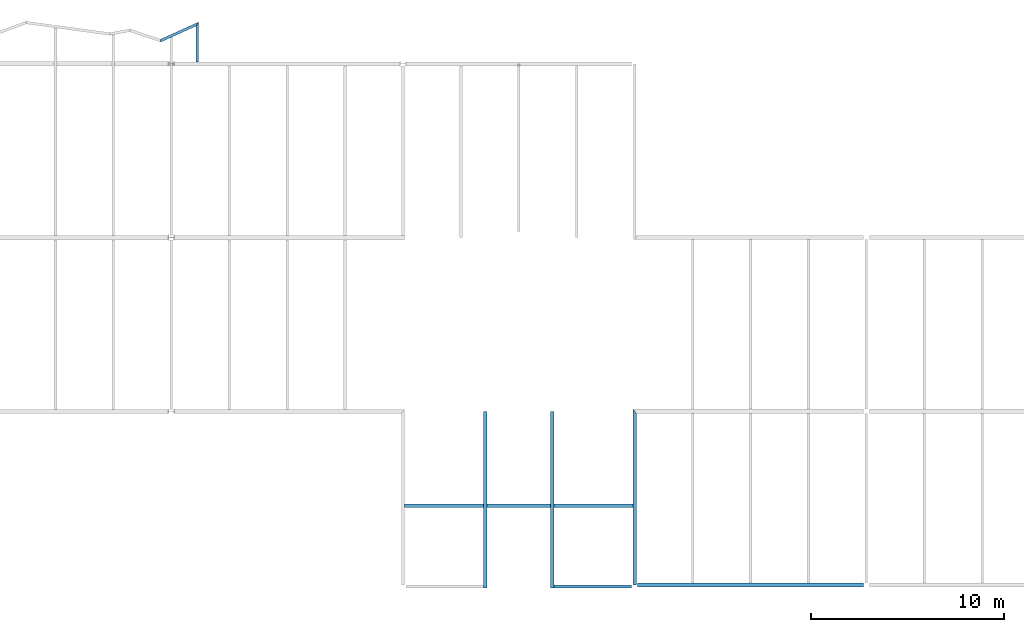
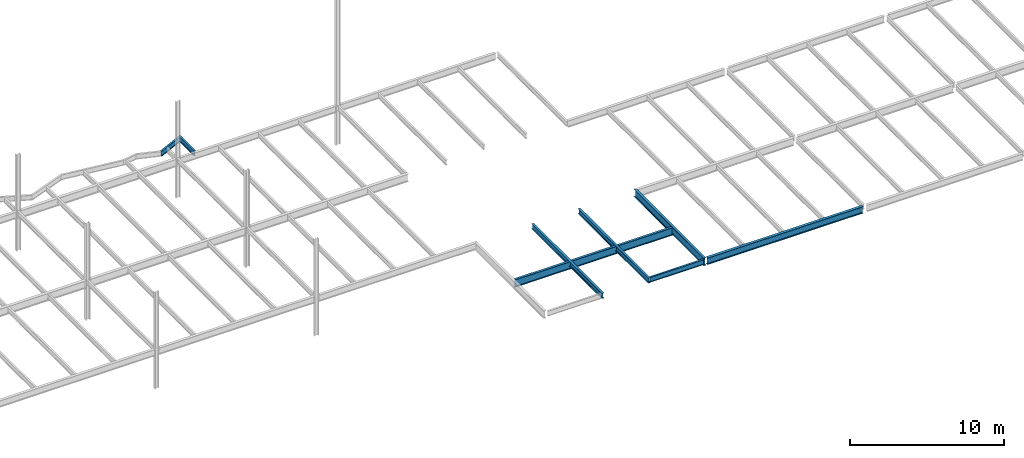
# One storey, part 12 of 23: 8 beams.
"""IFC2X3 building model written with IfcOpenShell, lengths in millimetres."""

from ifc_helpers import new_model, si_unit, origin, place, context, project, spatial, faceted_brep, material, element, save


model = new_model("IFC2X3")

# Units and contexts
context_of_model = context(None, 3, precision=1e-05, world=origin())
ifc_project = project(units=[si_unit("LENGTHUNIT", "METRE", prefix="MILLI")], contexts=[context_of_model])

# Building, storey
building = spatial("IfcBuilding", under=ifc_project, Name="Building", CompositionType="ELEMENT")
storey = spatial("IfcBuildingStorey", under=building, Name="FL5-FRM", CompositionType="ELEMENT")

# Beams
ifc_material_1 = material(Name="A992")
beam_1_placement = place(None, origin())
element("IfcBeam", 1, at=beam_1_placement, inside=storey, material=ifc_material_1, Name="B607", context=context_of_model, shape_type="Brep", body=[
    faceted_brep([(89.5, 13020.0, 17270.0), (89.5, 13199.0, 17270.0), (11910.5, 13199.0, 17270.0), (11910.5, 13020.0, 17270.0), (89.5, 13199.0, 17285.0), (11910.5, 13199.0, 17285.0), (89.5, 13130.1, 17285.0), (11910.5, 13130.1, 17285.0), (89.5, 13126.2, 17285.5), (11910.5, 13126.2, 17285.5), (89.5, 13122.5, 17287.0), (11910.5, 13122.5, 17287.0), (89.5, 13119.4, 17289.5), (11910.5, 13119.4, 17289.5), (89.5, 13117.0, 17292.6), (11910.5, 13117.0, 17292.6), (89.5, 13115.5, 17296.3), (11910.5, 13115.5, 17296.3), (89.5, 13114.9, 17300.2), (11910.5, 13114.9, 17300.2), (89.5, 13114.9, 17842.8), (11910.5, 13114.9, 17842.8), (89.5, 13115.5, 17846.7), (11910.5, 13115.5, 17846.7), (89.5, 13117.0, 17850.4), (11910.5, 13117.0, 17850.4), (89.5, 13119.4, 17853.5), (11910.5, 13119.4, 17853.5), (89.5, 13122.5, 17856.0), (11910.5, 13122.5, 17856.0), (89.5, 13126.2, 17857.5), (11910.5, 13126.2, 17857.5), (89.5, 13130.1, 17858.0), (11910.5, 13130.1, 17858.0), (89.5, 13199.0, 17858.0), (11910.5, 13199.0, 17858.0), (89.5, 13199.0, 17873.0), (11910.5, 13199.0, 17873.0), (89.5, 13020.0, 17873.0), (11910.5, 13020.0, 17873.0), (89.5, 13020.0, 17858.0), (11910.5, 13020.0, 17858.0), (89.5, 13088.9, 17858.0), (11910.5, 13088.9, 17858.0), (89.5, 13092.8, 17857.5), (11910.5, 13092.8, 17857.5), (89.5, 13096.5, 17856.0), (11910.5, 13096.5, 17856.0), (89.5, 13099.6, 17853.5), (11910.5, 13099.6, 17853.5), (89.5, 13102.0, 17850.4), (11910.5, 13102.0, 17850.4), (89.5, 13103.5, 17846.7), (11910.5, 13103.5, 17846.7), (89.5, 13104.1, 17842.8), (11910.5, 13104.1, 17842.8), (89.5, 13104.1, 17300.2), (11910.5, 13104.1, 17300.2), (89.5, 13103.5, 17296.3), (11910.5, 13103.5, 17296.3), (89.5, 13102.0, 17292.6), (11910.5, 13102.0, 17292.6), (89.5, 13099.6, 17289.5), (11910.5, 13099.6, 17289.5), (89.5, 13096.5, 17287.0), (11910.5, 13096.5, 17287.0), (89.5, 13092.8, 17285.5), (11910.5, 13092.8, 17285.5), (89.5, 13088.9, 17285.0), (11910.5, 13088.9, 17285.0), (89.5, 13020.0, 17285.0), (11910.5, 13020.0, 17285.0)], [[[0, 1, 2, 3]], [[1, 4, 5, 2]], [[4, 6, 7, 5]], [[6, 8, 9, 7]], [[8, 10, 11, 9]], [[10, 12, 13, 11]], [[12, 14, 15, 13]], [[14, 16, 17, 15]], [[16, 18, 19, 17]], [[18, 20, 21, 19]], [[20, 22, 23, 21]], [[22, 24, 25, 23]], [[24, 26, 27, 25]], [[26, 28, 29, 27]], [[28, 30, 31, 29]], [[30, 32, 33, 31]], [[32, 34, 35, 33]], [[34, 36, 37, 35]], [[36, 38, 39, 37]], [[38, 40, 41, 39]], [[40, 42, 43, 41]], [[42, 44, 45, 43]], [[44, 46, 47, 45]], [[46, 48, 49, 47]], [[48, 50, 51, 49]], [[50, 52, 53, 51]], [[52, 54, 55, 53]], [[54, 56, 57, 55]], [[56, 58, 59, 57]], [[58, 60, 61, 59]], [[60, 62, 63, 61]], [[62, 64, 65, 63]], [[64, 66, 67, 65]], [[66, 68, 69, 67]], [[68, 70, 71, 69]], [[70, 0, 3, 71]], [[0, 70, 68, 66, 64, 62, 60, 58, 56, 54, 52, 50, 48, 46, 44, 42, 40, 38, 36, 34, 32, 30, 28, 26, 24, 22, 20, 18, 16, 14, 12, 10, 8, 6, 4, 1]], [[3, 2, 5, 7, 9, 11, 13, 15, 17, 19, 21, 23, 25, 27, 29, 31, 33, 35, 37, 39, 41, 43, 45, 47, 49, 51, 53, 55, 57, 59, 61, 63, 65, 67, 69, 71]]]),
])
ifc_material_2 = material(Name="A992")
beam_2_placement = place(None, origin())
element("IfcBeam", 2, at=beam_2_placement, inside=storey, material=ifc_material_2, Name="B755", context=context_of_model, shape_type="Brep", body=[
    faceted_brep([(7827.0, 8851.2, 17466.0), (7649.0, 8851.2, 17466.0), (7649.0, 18000.0, 17466.0), (7827.0, 18000.0, 17466.0), (7649.0, 8851.2, 17478.8), (7649.0, 18000.0, 17478.8), (7723.95, 8851.2, 17478.8), (7723.95, 18000.0, 17478.8), (7726.59, 8851.2, 17479.1), (7726.59, 18000.0, 17479.1), (7729.05, 8851.2, 17480.2), (7729.05, 18000.0, 17480.2), (7731.16, 8851.2, 17481.8), (7731.16, 18000.0, 17481.8), (7732.78, 8851.2, 17483.9), (7732.78, 18000.0, 17483.9), (7733.8, 8851.2, 17486.4), (7733.8, 18000.0, 17486.4), (7734.15, 8851.2, 17489.0), (7734.15, 18000.0, 17489.0), (7734.15, 8851.2, 17850.0), (7734.15, 18000.0, 17850.0), (7733.8, 8851.2, 17852.6), (7733.8, 18000.0, 17852.6), (7732.78, 8851.2, 17855.1), (7732.78, 18000.0, 17855.1), (7731.16, 8851.2, 17857.2), (7731.16, 18000.0, 17857.2), (7729.05, 8851.2, 17858.8), (7729.05, 18000.0, 17858.8), (7726.59, 8851.2, 17859.9), (7726.59, 18000.0, 17859.9), (7723.95, 8851.2, 17860.2), (7723.95, 18000.0, 17860.2), (7649.0, 8851.2, 17860.2), (7649.0, 18000.0, 17860.2), (7649.0, 8851.2, 17873.0), (7649.0, 18000.0, 17873.0), (7827.0, 8851.2, 17873.0), (7827.0, 18000.0, 17873.0), (7827.0, 8851.2, 17860.2), (7827.0, 18000.0, 17860.2), (7752.05, 8851.2, 17860.2), (7752.05, 18000.0, 17860.2), (7749.41, 8851.2, 17859.9), (7749.41, 18000.0, 17859.9), (7746.95, 8851.2, 17858.8), (7746.95, 18000.0, 17858.8), (7744.84, 8851.2, 17857.2), (7744.84, 18000.0, 17857.2), (7743.22, 8851.2, 17855.1), (7743.22, 18000.0, 17855.1), (7742.2, 8851.2, 17852.6), (7742.2, 18000.0, 17852.6), (7741.85, 8851.2, 17850.0), (7741.85, 18000.0, 17850.0), (7741.85, 8851.2, 17489.0), (7741.85, 18000.0, 17489.0), (7742.2, 8851.2, 17486.4), (7742.2, 18000.0, 17486.4), (7743.22, 8851.2, 17483.9), (7743.22, 18000.0, 17483.9), (7744.84, 8851.2, 17481.8), (7744.84, 18000.0, 17481.8), (7746.95, 8851.2, 17480.2), (7746.95, 18000.0, 17480.2), (7749.41, 8851.2, 17479.1), (7749.41, 18000.0, 17479.1), (7752.05, 8851.2, 17478.8), (7752.05, 18000.0, 17478.8), (7827.0, 8851.2, 17478.8), (7827.0, 18000.0, 17478.8)], [[[0, 1, 2, 3]], [[1, 4, 5, 2]], [[4, 6, 7, 5]], [[6, 8, 9, 7]], [[8, 10, 11, 9]], [[10, 12, 13, 11]], [[12, 14, 15, 13]], [[14, 16, 17, 15]], [[16, 18, 19, 17]], [[18, 20, 21, 19]], [[20, 22, 23, 21]], [[22, 24, 25, 23]], [[24, 26, 27, 25]], [[26, 28, 29, 27]], [[28, 30, 31, 29]], [[30, 32, 33, 31]], [[32, 34, 35, 33]], [[34, 36, 37, 35]], [[36, 38, 39, 37]], [[38, 40, 41, 39]], [[40, 42, 43, 41]], [[42, 44, 45, 43]], [[44, 46, 47, 45]], [[46, 48, 49, 47]], [[48, 50, 51, 49]], [[50, 52, 53, 51]], [[52, 54, 55, 53]], [[54, 56, 57, 55]], [[56, 58, 59, 57]], [[58, 60, 61, 59]], [[60, 62, 63, 61]], [[62, 64, 65, 63]], [[64, 66, 67, 65]], [[66, 68, 69, 67]], [[68, 70, 71, 69]], [[70, 0, 3, 71]], [[0, 70, 68, 66, 64, 62, 60, 58, 56, 54, 52, 50, 48, 46, 44, 42, 40, 38, 36, 34, 32, 30, 28, 26, 24, 22, 20, 18, 16, 14, 12, 10, 8, 6, 4, 1]], [[3, 2, 5, 7, 9, 11, 13, 15, 17, 19, 21, 23, 25, 27, 29, 31, 33, 35, 37, 39, 41, 43, 45, 47, 49, 51, 53, 55, 57, 59, 61, 63, 65, 67, 69, 71]]]),
])
ifc_material_3 = material(Name="A992")
beam_3_placement = place(None, origin())
element("IfcBeam", 3, at=beam_3_placement, inside=storey, material=ifc_material_3, Name="B756", context=context_of_model, shape_type="Brep", body=[
    faceted_brep([(4351.0, 8851.2, 17466.0), (4173.0, 8851.2, 17466.0), (4173.0, 18000.0, 17466.0), (4351.0, 18000.0, 17466.0), (4173.0, 8851.2, 17478.8), (4173.0, 18000.0, 17478.8), (4247.95, 8851.2, 17478.8), (4247.95, 18000.0, 17478.8), (4250.59, 8851.2, 17479.1), (4250.59, 18000.0, 17479.1), (4253.05, 8851.2, 17480.2), (4253.05, 18000.0, 17480.2), (4255.16, 8851.2, 17481.8), (4255.16, 18000.0, 17481.8), (4256.78, 8851.2, 17483.9), (4256.78, 18000.0, 17483.9), (4257.8, 8851.2, 17486.4), (4257.8, 18000.0, 17486.4), (4258.15, 8851.2, 17489.0), (4258.15, 18000.0, 17489.0), (4258.15, 8851.2, 17850.0), (4258.15, 18000.0, 17850.0), (4257.8, 8851.2, 17852.6), (4257.8, 18000.0, 17852.6), (4256.78, 8851.2, 17855.1), (4256.78, 18000.0, 17855.1), (4255.16, 8851.2, 17857.2), (4255.16, 18000.0, 17857.2), (4253.05, 8851.2, 17858.8), (4253.05, 18000.0, 17858.8), (4250.59, 8851.2, 17859.9), (4250.59, 18000.0, 17859.9), (4247.95, 8851.2, 17860.2), (4247.95, 18000.0, 17860.2), (4173.0, 8851.2, 17860.2), (4173.0, 18000.0, 17860.2), (4173.0, 8851.2, 17873.0), (4173.0, 18000.0, 17873.0), (4351.0, 8851.2, 17873.0), (4351.0, 18000.0, 17873.0), (4351.0, 8851.2, 17860.2), (4351.0, 18000.0, 17860.2), (4276.05, 8851.2, 17860.2), (4276.05, 18000.0, 17860.2), (4273.41, 8851.2, 17859.9), (4273.41, 18000.0, 17859.9), (4270.95, 8851.2, 17858.8), (4270.95, 18000.0, 17858.8), (4268.84, 8851.2, 17857.2), (4268.84, 18000.0, 17857.2), (4267.22, 8851.2, 17855.1), (4267.22, 18000.0, 17855.1), (4266.2, 8851.2, 17852.6), (4266.2, 18000.0, 17852.6), (4265.85, 8851.2, 17850.0), (4265.85, 18000.0, 17850.0), (4265.85, 8851.2, 17489.0), (4265.85, 18000.0, 17489.0), (4266.2, 8851.2, 17486.4), (4266.2, 18000.0, 17486.4), (4267.22, 8851.2, 17483.9), (4267.22, 18000.0, 17483.9), (4268.84, 8851.2, 17481.8), (4268.84, 18000.0, 17481.8), (4270.95, 8851.2, 17480.2), (4270.95, 18000.0, 17480.2), (4273.41, 8851.2, 17479.1), (4273.41, 18000.0, 17479.1), (4276.05, 8851.2, 17478.8), (4276.05, 18000.0, 17478.8), (4351.0, 8851.2, 17478.8), (4351.0, 18000.0, 17478.8)], [[[0, 1, 2, 3]], [[1, 4, 5, 2]], [[4, 6, 7, 5]], [[6, 8, 9, 7]], [[8, 10, 11, 9]], [[10, 12, 13, 11]], [[12, 14, 15, 13]], [[14, 16, 17, 15]], [[16, 18, 19, 17]], [[18, 20, 21, 19]], [[20, 22, 23, 21]], [[22, 24, 25, 23]], [[24, 26, 27, 25]], [[26, 28, 29, 27]], [[28, 30, 31, 29]], [[30, 32, 33, 31]], [[32, 34, 35, 33]], [[34, 36, 37, 35]], [[36, 38, 39, 37]], [[38, 40, 41, 39]], [[40, 42, 43, 41]], [[42, 44, 45, 43]], [[44, 46, 47, 45]], [[46, 48, 49, 47]], [[48, 50, 51, 49]], [[50, 52, 53, 51]], [[52, 54, 55, 53]], [[54, 56, 57, 55]], [[56, 58, 59, 57]], [[58, 60, 61, 59]], [[60, 62, 63, 61]], [[62, 64, 65, 63]], [[64, 66, 67, 65]], [[66, 68, 69, 67]], [[68, 70, 71, 69]], [[70, 0, 3, 71]], [[0, 70, 68, 66, 64, 62, 60, 58, 56, 54, 52, 50, 48, 46, 44, 42, 40, 38, 36, 34, 32, 30, 28, 26, 24, 22, 20, 18, 16, 14, 12, 10, 8, 6, 4, 1]], [[3, 2, 5, 7, 9, 11, 13, 15, 17, 19, 21, 23, 25, 27, 29, 31, 33, 35, 37, 39, 41, 43, 45, 47, 49, 51, 53, 55, 57, 59, 61, 63, 65, 67, 69, 71]]]),
])
ifc_material_4 = material(Name="A992")
beam_4_placement = place(None, origin())
element("IfcBeam", 4, at=beam_4_placement, inside=storey, material=ifc_material_4, Name="B816", context=context_of_model, shape_type="Brep", body=[
    faceted_brep([(12089.5, 9004.95, 17270.0), (11910.5, 9004.95, 17270.0), (11910.5, 18114.5, 17270.0), (12089.5, 17885.5, 17270.0), (11910.5, 9004.95, 17285.0), (11910.5, 18114.5, 17285.0), (11979.4, 9004.95, 17285.0), (11979.4, 18026.4, 17285.0), (11981.7, 9004.95, 17285.2), (11981.7, 18023.4, 17285.1), (11984.0, 9004.95, 17285.7), (11984.0, 18020.4, 17285.7), (11986.3, 9004.95, 17286.7), (11986.2, 18017.7, 17286.6), (11988.3, 9004.95, 17287.9), (11988.2, 18015.1, 17287.8), (11990.1, 9004.95, 17289.5), (11990.1, 18012.7, 17289.5), (11991.6, 9004.95, 17291.3), (11991.6, 18010.8, 17291.2), (11992.9, 9004.95, 17293.3), (11992.9, 18009.1, 17293.2), (11993.8, 9004.95, 17295.5), (11993.8, 18008.0, 17295.5), (11994.4, 9004.95, 17297.8), (11994.3, 18007.3, 17297.8), (11994.6, 9004.95, 17300.2), (11994.6, 18007.0, 17300.2), (11994.6, 9004.95, 17842.8), (11994.6, 18007.0, 17842.8), (11994.4, 9004.95, 17845.2), (11994.3, 18007.3, 17845.2), (11993.8, 9004.95, 17847.5), (11993.8, 18008.0, 17847.5), (11992.9, 9004.95, 17849.7), (11992.9, 18009.1, 17849.8), (11991.6, 9004.95, 17851.7), (11991.6, 18010.8, 17851.8), (11990.1, 9004.95, 17853.5), (11990.1, 18012.7, 17853.5), (11988.3, 9004.95, 17855.1), (11988.2, 18015.1, 17855.2), (11986.3, 9004.95, 17856.3), (11986.2, 18017.7, 17856.4), (11984.0, 9004.95, 17857.3), (11984.0, 18020.4, 17857.3), (11981.7, 9004.95, 17857.8), (11981.7, 18023.4, 17857.9), (11979.4, 9004.95, 17858.0), (11979.4, 18026.4, 17858.0), (11910.5, 9004.95, 17858.0), (11910.5, 18114.5, 17858.0), (11910.5, 9004.95, 17873.0), (11910.5, 18114.5, 17873.0), (12089.5, 9004.95, 17873.0), (12089.5, 17885.5, 17873.0), (12089.5, 9004.95, 17858.0), (12089.5, 17885.5, 17858.0), (12020.6, 9004.95, 17858.0), (12020.6, 17973.6, 17858.0), (12018.3, 9004.95, 17857.8), (12018.3, 17976.6, 17857.9), (12016.0, 9004.95, 17857.3), (12016.0, 17979.6, 17857.3), (12013.7, 9004.95, 17856.3), (12013.8, 17982.3, 17856.4), (12011.7, 9004.95, 17855.1), (12011.8, 17984.9, 17855.2), (12009.9, 9004.95, 17853.5), (12009.9, 17987.3, 17853.5), (12008.4, 9004.95, 17851.7), (12008.4, 17989.2, 17851.8), (12007.1, 9004.95, 17849.7), (12007.1, 17990.9, 17849.8), (12006.2, 9004.95, 17847.5), (12006.2, 17992.0, 17847.5), (12005.6, 9004.95, 17845.2), (12005.7, 17992.7, 17845.2), (12005.4, 9004.95, 17842.8), (12005.4, 17993.0, 17842.8), (12005.4, 9004.95, 17300.2), (12005.4, 17993.0, 17300.2), (12005.6, 9004.95, 17297.8), (12005.7, 17992.7, 17297.8), (12006.2, 9004.95, 17295.5), (12006.2, 17992.0, 17295.5), (12007.1, 9004.95, 17293.3), (12007.1, 17990.9, 17293.2), (12008.4, 9004.95, 17291.3), (12008.4, 17989.2, 17291.2), (12009.9, 9004.95, 17289.5), (12009.9, 17987.3, 17289.5), (12011.7, 9004.95, 17287.9), (12011.8, 17984.9, 17287.8), (12013.7, 9004.95, 17286.7), (12013.8, 17982.3, 17286.6), (12016.0, 9004.95, 17285.7), (12016.0, 17979.6, 17285.7), (12018.3, 9004.95, 17285.2), (12018.3, 17976.6, 17285.1), (12020.6, 9004.95, 17285.0), (12020.6, 17973.6, 17285.0), (12089.5, 9004.95, 17285.0), (12089.5, 17885.5, 17285.0)], [[[0, 1, 2, 3]], [[1, 4, 5, 2]], [[4, 6, 7, 5]], [[6, 8, 9, 7]], [[8, 10, 11, 9]], [[10, 12, 13, 11]], [[12, 14, 15, 13]], [[14, 16, 17, 15]], [[16, 18, 19, 17]], [[18, 20, 21, 19]], [[20, 22, 23, 21]], [[22, 24, 25, 23]], [[24, 26, 27, 25]], [[26, 28, 29, 27]], [[28, 30, 31, 29]], [[30, 32, 33, 31]], [[32, 34, 35, 33]], [[34, 36, 37, 35]], [[36, 38, 39, 37]], [[38, 40, 41, 39]], [[40, 42, 43, 41]], [[42, 44, 45, 43]], [[44, 46, 47, 45]], [[46, 48, 49, 47]], [[48, 50, 51, 49]], [[50, 52, 53, 51]], [[52, 54, 55, 53]], [[54, 56, 57, 55]], [[56, 58, 59, 57]], [[58, 60, 61, 59]], [[60, 62, 63, 61]], [[62, 64, 65, 63]], [[64, 66, 67, 65]], [[66, 68, 69, 67]], [[68, 70, 71, 69]], [[70, 72, 73, 71]], [[72, 74, 75, 73]], [[74, 76, 77, 75]], [[76, 78, 79, 77]], [[78, 80, 81, 79]], [[80, 82, 83, 81]], [[82, 84, 85, 83]], [[84, 86, 87, 85]], [[86, 88, 89, 87]], [[88, 90, 91, 89]], [[90, 92, 93, 91]], [[92, 94, 95, 93]], [[94, 96, 97, 95]], [[96, 98, 99, 97]], [[98, 100, 101, 99]], [[100, 102, 103, 101]], [[102, 0, 3, 103]], [[0, 102, 100, 98, 96, 94, 92, 90, 88, 86, 84, 82, 80, 78, 76, 74, 72, 70, 68, 66, 64, 62, 60, 58, 56, 54, 52, 50, 48, 46, 44, 42, 40, 38, 36, 34, 32, 30, 28, 26, 24, 22, 20, 18, 16, 14, 12, 10, 8, 6, 4, 1]], [[3, 2, 5, 7, 9, 11, 13, 15, 17, 19, 21, 23, 25, 27, 29, 31, 33, 35, 37, 39, 41, 43, 45, 47, 49, 51, 53, 55, 57, 59, 61, 63, 65, 67, 69, 71, 73, 75, 77, 79, 81, 83, 85, 87, 89, 91, 93, 95, 97, 99, 101, 103]]]),
])
ifc_material_5 = material(Name="A992")
beam_5_placement = place(None, origin())
element("IfcBeam", 5, at=beam_5_placement, inside=storey, material=ifc_material_5, Name="Column587", context=context_of_model, shape_type="Brep", body=[
    faceted_brep([(12154.0, 8895.5, 17345.0), (12154.0, 9104.5, 17345.0), (23847.0, 9104.5, 17345.0), (23847.0, 8895.5, 17345.0), (12154.0, 9104.5, 17358.3), (23847.0, 9104.5, 17358.3), (12154.0, 9017.45, 17358.3), (23847.0, 9017.45, 17358.3), (12154.0, 9014.16, 17358.7), (23847.0, 9014.16, 17358.7), (12154.0, 9011.1, 17360.0), (23847.0, 9011.1, 17360.0), (12154.0, 9008.47, 17362.0), (23847.0, 9008.47, 17362.0), (12154.0, 9006.45, 17364.7), (23847.0, 9006.45, 17364.7), (12154.0, 9005.18, 17367.7), (23847.0, 9005.18, 17367.7), (12154.0, 9004.75, 17371.0), (23847.0, 9004.75, 17371.0), (12154.0, 9004.75, 17847.0), (23847.0, 9004.75, 17847.0), (12154.0, 9005.18, 17850.3), (23847.0, 9005.18, 17850.3), (12154.0, 9006.45, 17853.3), (23847.0, 9006.45, 17853.3), (12154.0, 9008.47, 17856.0), (23847.0, 9008.47, 17856.0), (12154.0, 9011.1, 17858.0), (23847.0, 9011.1, 17858.0), (12154.0, 9014.16, 17859.3), (23847.0, 9014.16, 17859.3), (12154.0, 9017.45, 17859.7), (23847.0, 9017.45, 17859.7), (12154.0, 9104.5, 17859.7), (23847.0, 9104.5, 17859.7), (12154.0, 9104.5, 17873.0), (23847.0, 9104.5, 17873.0), (12154.0, 8895.5, 17873.0), (23847.0, 8895.5, 17873.0), (12154.0, 8895.5, 17859.7), (23847.0, 8895.5, 17859.7), (12154.0, 8982.55, 17859.7), (23847.0, 8982.55, 17859.7), (12154.0, 8985.84, 17859.3), (23847.0, 8985.84, 17859.3), (12154.0, 8988.9, 17858.0), (23847.0, 8988.9, 17858.0), (12154.0, 8991.53, 17856.0), (23847.0, 8991.53, 17856.0), (12154.0, 8993.55, 17853.3), (23847.0, 8993.55, 17853.3), (12154.0, 8994.82, 17850.3), (23847.0, 8994.82, 17850.3), (12154.0, 8995.25, 17847.0), (23847.0, 8995.25, 17847.0), (12154.0, 8995.25, 17371.0), (23847.0, 8995.25, 17371.0), (12154.0, 8994.82, 17367.7), (23847.0, 8994.82, 17367.7), (12154.0, 8993.55, 17364.7), (23847.0, 8993.55, 17364.7), (12154.0, 8991.53, 17362.0), (23847.0, 8991.53, 17362.0), (12154.0, 8988.9, 17360.0), (23847.0, 8988.9, 17360.0), (12154.0, 8985.84, 17358.7), (23847.0, 8985.84, 17358.7), (12154.0, 8982.55, 17358.3), (23847.0, 8982.55, 17358.3), (12154.0, 8895.5, 17358.3), (23847.0, 8895.5, 17358.3)], [[[0, 1, 2, 3]], [[1, 4, 5, 2]], [[4, 6, 7, 5]], [[6, 8, 9, 7]], [[8, 10, 11, 9]], [[10, 12, 13, 11]], [[12, 14, 15, 13]], [[14, 16, 17, 15]], [[16, 18, 19, 17]], [[18, 20, 21, 19]], [[20, 22, 23, 21]], [[22, 24, 25, 23]], [[24, 26, 27, 25]], [[26, 28, 29, 27]], [[28, 30, 31, 29]], [[30, 32, 33, 31]], [[32, 34, 35, 33]], [[34, 36, 37, 35]], [[36, 38, 39, 37]], [[38, 40, 41, 39]], [[40, 42, 43, 41]], [[42, 44, 45, 43]], [[44, 46, 47, 45]], [[46, 48, 49, 47]], [[48, 50, 51, 49]], [[50, 52, 53, 51]], [[52, 54, 55, 53]], [[54, 56, 57, 55]], [[56, 58, 59, 57]], [[58, 60, 61, 59]], [[60, 62, 63, 61]], [[62, 64, 65, 63]], [[64, 66, 67, 65]], [[66, 68, 69, 67]], [[68, 70, 71, 69]], [[70, 0, 3, 71]], [[0, 70, 68, 66, 64, 62, 60, 58, 56, 54, 52, 50, 48, 46, 44, 42, 40, 38, 36, 34, 32, 30, 28, 26, 24, 22, 20, 18, 16, 14, 12, 10, 8, 6, 4, 1]], [[3, 2, 5, 7, 9, 11, 13, 15, 17, 19, 21, 23, 25, 27, 29, 31, 33, 35, 37, 39, 41, 43, 45, 47, 49, 51, 53, 55, 57, 59, 61, 63, 65, 67, 69, 71]]]),
])
ifc_material_6 = material(Name="A992")
beam_6_placement = place(None, origin())
element("IfcBeam", 6, at=beam_6_placement, inside=storey, material=ifc_material_6, Name="B977", context=context_of_model, shape_type="Brep", body=[
    faceted_brep([(-12548.9, 37124.0, 17474.0), (-12556.6, 37274.1, 17474.0), (-10580.0, 38166.6, 17474.0), (-10720.0, 37949.8, 17474.0), (-12556.6, 37274.1, 17482.8), (-10580.0, 38166.6, 17482.8), (-12553.5, 37213.4, 17482.8), (-10636.6, 38079.0, 17482.8), (-12553.4, 37211.7, 17482.9), (-10638.2, 38076.5, 17482.9), (-12553.3, 37210.1, 17483.3), (-10639.7, 38074.1, 17483.3), (-12553.2, 37208.5, 17483.9), (-10641.2, 38071.9, 17483.9), (-12553.1, 37207.0, 17484.7), (-10642.5, 38069.8, 17484.7), (-12553.1, 37205.7, 17485.8), (-10643.8, 38067.8, 17485.8), (-12553.0, 37204.6, 17487.0), (-10644.8, 38066.3, 17486.9), (-12553.0, 37203.7, 17488.4), (-10645.7, 38064.9, 17488.3), (-12552.9, 37203.0, 17489.8), (-10646.3, 38064.0, 17489.8), (-12552.9, 37202.7, 17491.4), (-10646.6, 38063.5, 17491.4), (-12552.9, 37202.5, 17493.0), (-10646.8, 38063.2, 17493.0), (-12552.9, 37202.5, 17854.0), (-10646.8, 38063.2, 17854.0), (-12552.9, 37202.7, 17855.6), (-10646.6, 38063.5, 17855.6), (-12552.9, 37203.0, 17857.2), (-10646.3, 38064.0, 17857.2), (-12553.0, 37203.7, 17858.6), (-10645.7, 38064.9, 17858.7), (-12553.0, 37204.6, 17860.0), (-10644.8, 38066.3, 17860.1), (-12553.1, 37205.7, 17861.2), (-10643.8, 38067.8, 17861.2), (-12553.1, 37207.0, 17862.3), (-10642.5, 38069.8, 17862.3), (-12553.2, 37208.5, 17863.1), (-10641.2, 38071.9, 17863.1), (-12553.3, 37210.1, 17863.7), (-10639.7, 38074.1, 17863.7), (-12553.4, 37211.7, 17864.1), (-10638.2, 38076.5, 17864.1), (-12553.5, 37213.4, 17864.2), (-10636.6, 38079.0, 17864.2), (-12556.6, 37274.1, 17864.2), (-10580.0, 38166.6, 17864.2), (-12556.6, 37274.1, 17873.0), (-10580.0, 38166.6, 17873.0), (-12548.9, 37124.0, 17873.0), (-10720.0, 37949.8, 17873.0), (-12548.9, 37124.0, 17864.2), (-10720.0, 37949.8, 17864.2), (-12552.0, 37184.7, 17864.2), (-10663.4, 38037.5, 17864.2), (-12552.1, 37186.4, 17864.1), (-10661.8, 38039.9, 17864.1), (-12552.2, 37188.1, 17863.7), (-10660.3, 38042.3, 17863.7), (-12552.2, 37189.7, 17863.1), (-10658.8, 38044.6, 17863.1), (-12552.3, 37191.1, 17862.3), (-10657.5, 38046.7, 17862.3), (-12552.4, 37192.4, 17861.2), (-10656.2, 38048.6, 17861.2), (-12552.4, 37193.5, 17860.0), (-10655.2, 38050.2, 17860.1), (-12552.5, 37194.5, 17858.6), (-10654.3, 38051.5, 17858.7), (-12552.5, 37195.1, 17857.2), (-10653.7, 38052.4, 17857.2), (-12552.5, 37195.5, 17855.6), (-10653.4, 38053.0, 17855.6), (-12552.5, 37195.6, 17854.0), (-10653.2, 38053.3, 17854.0), (-12552.5, 37195.6, 17493.0), (-10653.2, 38053.3, 17493.0), (-12552.5, 37195.5, 17491.4), (-10653.4, 38053.0, 17491.4), (-12552.5, 37195.1, 17489.8), (-10653.7, 38052.4, 17489.8), (-12552.5, 37194.5, 17488.4), (-10654.3, 38051.5, 17488.3), (-12552.4, 37193.5, 17487.0), (-10655.2, 38050.2, 17486.9), (-12552.4, 37192.4, 17485.8), (-10656.2, 38048.6, 17485.8), (-12552.3, 37191.1, 17484.7), (-10657.5, 38046.7, 17484.7), (-12552.2, 37189.7, 17483.9), (-10658.8, 38044.6, 17483.9), (-12552.2, 37188.1, 17483.3), (-10660.3, 38042.3, 17483.3), (-12552.1, 37186.4, 17482.9), (-10661.8, 38039.9, 17482.9), (-12552.0, 37184.7, 17482.8), (-10663.4, 38037.5, 17482.8), (-12548.9, 37124.0, 17482.8), (-10720.0, 37949.8, 17482.8)], [[[0, 1, 2, 3]], [[1, 4, 5, 2]], [[4, 6, 7, 5]], [[6, 8, 9, 7]], [[8, 10, 11, 9]], [[10, 12, 13, 11]], [[12, 14, 15, 13]], [[14, 16, 17, 15]], [[16, 18, 19, 17]], [[18, 20, 21, 19]], [[20, 22, 23, 21]], [[22, 24, 25, 23]], [[24, 26, 27, 25]], [[26, 28, 29, 27]], [[28, 30, 31, 29]], [[30, 32, 33, 31]], [[32, 34, 35, 33]], [[34, 36, 37, 35]], [[36, 38, 39, 37]], [[38, 40, 41, 39]], [[40, 42, 43, 41]], [[42, 44, 45, 43]], [[44, 46, 47, 45]], [[46, 48, 49, 47]], [[48, 50, 51, 49]], [[50, 52, 53, 51]], [[52, 54, 55, 53]], [[54, 56, 57, 55]], [[56, 58, 59, 57]], [[58, 60, 61, 59]], [[60, 62, 63, 61]], [[62, 64, 65, 63]], [[64, 66, 67, 65]], [[66, 68, 69, 67]], [[68, 70, 71, 69]], [[70, 72, 73, 71]], [[72, 74, 75, 73]], [[74, 76, 77, 75]], [[76, 78, 79, 77]], [[78, 80, 81, 79]], [[80, 82, 83, 81]], [[82, 84, 85, 83]], [[84, 86, 87, 85]], [[86, 88, 89, 87]], [[88, 90, 91, 89]], [[90, 92, 93, 91]], [[92, 94, 95, 93]], [[94, 96, 97, 95]], [[96, 98, 99, 97]], [[98, 100, 101, 99]], [[100, 102, 103, 101]], [[102, 0, 3, 103]], [[0, 102, 100, 98, 96, 94, 92, 90, 88, 86, 84, 82, 80, 78, 76, 74, 72, 70, 68, 66, 64, 62, 60, 58, 56, 54, 52, 50, 48, 46, 44, 42, 40, 38, 36, 34, 32, 30, 28, 26, 24, 22, 20, 18, 16, 14, 12, 10, 8, 6, 4, 1]], [[3, 2, 5, 7, 9, 11, 13, 15, 17, 19, 21, 23, 25, 27, 29, 31, 33, 35, 37, 39, 41, 43, 45, 47, 49, 51, 53, 55, 57, 59, 61, 63, 65, 67, 69, 71, 73, 75, 77, 79, 81, 83, 85, 87, 89, 91, 93, 95, 97, 99, 101, 103]]]),
])
ifc_material_7 = material(Name="A992")
beam_7_placement = place(None, origin())
element("IfcBeam", 7, at=beam_7_placement, inside=storey, material=ifc_material_7, Name="B978", context=context_of_model, shape_type="Brep", body=[
    faceted_brep([(-10720.0, 37949.8, 17474.0), (-10580.0, 38166.6, 17474.0), (-10580.0, 36104.5, 17474.0), (-10720.0, 36104.5, 17474.0), (-10580.0, 38166.6, 17482.8), (-10580.0, 36104.5, 17482.8), (-10636.6, 38079.0, 17482.8), (-10636.6, 36104.5, 17482.8), (-10638.0, 38076.8, 17482.9), (-10638.1, 36104.5, 17482.9), (-10639.5, 38074.6, 17483.2), (-10639.5, 36104.5, 17483.2), (-10640.8, 38072.4, 17483.7), (-10640.8, 36104.5, 17483.7), (-10642.1, 38070.5, 17484.4), (-10642.1, 36104.5, 17484.4), (-10643.2, 38068.7, 17485.2), (-10643.3, 36104.5, 17485.3), (-10644.3, 38067.1, 17486.3), (-10644.3, 36104.5, 17486.3), (-10645.1, 38065.8, 17487.4), (-10645.2, 36104.5, 17487.5), (-10645.9, 38064.6, 17488.7), (-10645.9, 36104.5, 17488.8), (-10646.3, 38063.9, 17490.1), (-10646.4, 36104.5, 17490.1), (-10646.6, 38063.4, 17491.5), (-10646.7, 36104.5, 17491.5), (-10646.8, 38063.2, 17493.0), (-10646.8, 36104.5, 17493.0), (-10646.8, 38063.2, 17854.0), (-10646.8, 36104.5, 17854.0), (-10646.6, 38063.4, 17855.5), (-10646.7, 36104.5, 17855.5), (-10646.3, 38063.9, 17856.9), (-10646.4, 36104.5, 17856.9), (-10645.9, 38064.6, 17858.3), (-10645.9, 36104.5, 17858.2), (-10645.1, 38065.8, 17859.6), (-10645.2, 36104.5, 17859.5), (-10644.3, 38067.1, 17860.7), (-10644.3, 36104.5, 17860.7), (-10643.2, 38068.7, 17861.8), (-10643.3, 36104.5, 17861.7), (-10642.1, 38070.5, 17862.6), (-10642.1, 36104.5, 17862.6), (-10640.8, 38072.4, 17863.3), (-10640.8, 36104.5, 17863.3), (-10639.5, 38074.6, 17863.8), (-10639.5, 36104.5, 17863.8), (-10638.0, 38076.8, 17864.1), (-10638.1, 36104.5, 17864.1), (-10636.6, 38079.0, 17864.2), (-10636.6, 36104.5, 17864.2), (-10580.0, 38166.6, 17864.2), (-10580.0, 36104.5, 17864.2), (-10580.0, 38166.6, 17873.0), (-10580.0, 36104.5, 17873.0), (-10720.0, 37949.8, 17873.0), (-10720.0, 36104.5, 17873.0), (-10720.0, 37949.8, 17864.2), (-10720.0, 36104.5, 17864.2), (-10663.4, 38037.5, 17864.2), (-10663.4, 36104.5, 17864.2), (-10662.0, 38039.7, 17864.1), (-10661.9, 36104.5, 17864.1), (-10660.5, 38041.9, 17863.8), (-10660.5, 36104.5, 17863.8), (-10659.2, 38044.0, 17863.3), (-10659.2, 36104.5, 17863.3), (-10657.9, 38045.9, 17862.6), (-10657.9, 36104.5, 17862.6), (-10656.8, 38047.8, 17861.8), (-10656.7, 36104.5, 17861.7), (-10655.7, 38049.3, 17860.7), (-10655.7, 36104.5, 17860.7), (-10654.9, 38050.7, 17859.6), (-10654.8, 36104.5, 17859.5), (-10654.1, 38051.8, 17858.3), (-10654.1, 36104.5, 17858.2), (-10653.7, 38052.5, 17856.9), (-10653.6, 36104.5, 17856.9), (-10653.4, 38053.0, 17855.5), (-10653.3, 36104.5, 17855.5), (-10653.2, 38053.3, 17854.0), (-10653.2, 36104.5, 17854.0), (-10653.2, 38053.3, 17493.0), (-10653.2, 36104.5, 17493.0), (-10653.4, 38053.0, 17491.5), (-10653.3, 36104.5, 17491.5), (-10653.7, 38052.5, 17490.1), (-10653.6, 36104.5, 17490.1), (-10654.1, 38051.8, 17488.7), (-10654.1, 36104.5, 17488.8), (-10654.9, 38050.7, 17487.4), (-10654.8, 36104.5, 17487.5), (-10655.7, 38049.3, 17486.3), (-10655.7, 36104.5, 17486.3), (-10656.8, 38047.8, 17485.2), (-10656.7, 36104.5, 17485.3), (-10657.9, 38045.9, 17484.4), (-10657.9, 36104.5, 17484.4), (-10659.2, 38044.0, 17483.7), (-10659.2, 36104.5, 17483.7), (-10660.5, 38041.9, 17483.2), (-10660.5, 36104.5, 17483.2), (-10662.0, 38039.7, 17482.9), (-10661.9, 36104.5, 17482.9), (-10663.4, 38037.5, 17482.8), (-10663.4, 36104.5, 17482.8), (-10720.0, 37949.8, 17482.8), (-10720.0, 36104.5, 17482.8)], [[[0, 1, 2, 3]], [[1, 4, 5, 2]], [[4, 6, 7, 5]], [[6, 8, 9, 7]], [[8, 10, 11, 9]], [[10, 12, 13, 11]], [[12, 14, 15, 13]], [[14, 16, 17, 15]], [[16, 18, 19, 17]], [[18, 20, 21, 19]], [[20, 22, 23, 21]], [[22, 24, 25, 23]], [[24, 26, 27, 25]], [[26, 28, 29, 27]], [[28, 30, 31, 29]], [[30, 32, 33, 31]], [[32, 34, 35, 33]], [[34, 36, 37, 35]], [[36, 38, 39, 37]], [[38, 40, 41, 39]], [[40, 42, 43, 41]], [[42, 44, 45, 43]], [[44, 46, 47, 45]], [[46, 48, 49, 47]], [[48, 50, 51, 49]], [[50, 52, 53, 51]], [[52, 54, 55, 53]], [[54, 56, 57, 55]], [[56, 58, 59, 57]], [[58, 60, 61, 59]], [[60, 62, 63, 61]], [[62, 64, 65, 63]], [[64, 66, 67, 65]], [[66, 68, 69, 67]], [[68, 70, 71, 69]], [[70, 72, 73, 71]], [[72, 74, 75, 73]], [[74, 76, 77, 75]], [[76, 78, 79, 77]], [[78, 80, 81, 79]], [[80, 82, 83, 81]], [[82, 84, 85, 83]], [[84, 86, 87, 85]], [[86, 88, 89, 87]], [[88, 90, 91, 89]], [[90, 92, 93, 91]], [[92, 94, 95, 93]], [[94, 96, 97, 95]], [[96, 98, 99, 97]], [[98, 100, 101, 99]], [[100, 102, 103, 101]], [[102, 104, 105, 103]], [[104, 106, 107, 105]], [[106, 108, 109, 107]], [[108, 110, 111, 109]], [[110, 0, 3, 111]], [[0, 110, 108, 106, 104, 102, 100, 98, 96, 94, 92, 90, 88, 86, 84, 82, 80, 78, 76, 74, 72, 70, 68, 66, 64, 62, 60, 58, 56, 54, 52, 50, 48, 46, 44, 42, 40, 38, 36, 34, 32, 30, 28, 26, 24, 22, 20, 18, 16, 14, 12, 10, 8, 6, 4, 1]], [[3, 2, 5, 7, 9, 11, 13, 15, 17, 19, 21, 23, 25, 27, 29, 31, 33, 35, 37, 39, 41, 43, 45, 47, 49, 51, 53, 55, 57, 59, 61, 63, 65, 67, 69, 71, 73, 75, 77, 79, 81, 83, 85, 87, 89, 91, 93, 95, 97, 99, 101, 103, 105, 107, 109, 111]]]),
])
ifc_material_8 = material(Name="A992")
beam_8_placement = place(None, origin())
element("IfcBeam", 8, at=beam_8_placement, inside=storey, material=ifc_material_8, Name="B1239", context=context_of_model, shape_type="Brep", body=[
    faceted_brep([(11846.0, 9000.0, 17474.0), (11846.0, 8860.0, 17474.0), (7826.8, 8860.0, 17474.0), (7826.8, 9000.0, 17474.0), (11846.0, 8860.0, 17482.8), (7826.8, 8860.0, 17482.8), (11846.0, 8916.6, 17482.8), (7826.8, 8916.6, 17482.8), (11846.0, 8919.24, 17483.1), (7826.8, 8919.24, 17483.1), (11846.0, 8921.7, 17484.2), (7826.8, 8921.7, 17484.2), (11846.0, 8923.81, 17485.8), (7826.8, 8923.81, 17485.8), (11846.0, 8925.43, 17487.9), (7826.8, 8925.43, 17487.9), (11846.0, 8926.45, 17490.4), (7826.8, 8926.45, 17490.4), (11846.0, 8926.8, 17493.0), (7826.8, 8926.8, 17493.0), (11846.0, 8926.8, 17854.0), (7826.8, 8926.8, 17854.0), (11846.0, 8926.45, 17856.6), (7826.8, 8926.45, 17856.6), (11846.0, 8925.43, 17859.1), (7826.8, 8925.43, 17859.1), (11846.0, 8923.81, 17861.2), (7826.8, 8923.81, 17861.2), (11846.0, 8921.7, 17862.8), (7826.8, 8921.7, 17862.8), (11846.0, 8919.24, 17863.9), (7826.8, 8919.24, 17863.9), (11846.0, 8916.6, 17864.2), (7826.8, 8916.6, 17864.2), (11846.0, 8860.0, 17864.2), (7826.8, 8860.0, 17864.2), (11846.0, 8860.0, 17873.0), (7826.8, 8860.0, 17873.0), (11846.0, 9000.0, 17873.0), (7826.8, 9000.0, 17873.0), (11846.0, 9000.0, 17864.2), (7826.8, 9000.0, 17864.2), (11846.0, 8943.4, 17864.2), (7826.8, 8943.4, 17864.2), (11846.0, 8940.76, 17863.9), (7826.8, 8940.76, 17863.9), (11846.0, 8938.3, 17862.8), (7826.8, 8938.3, 17862.8), (11846.0, 8936.19, 17861.2), (7826.8, 8936.19, 17861.2), (11846.0, 8934.57, 17859.1), (7826.8, 8934.57, 17859.1), (11846.0, 8933.55, 17856.6), (7826.8, 8933.55, 17856.6), (11846.0, 8933.2, 17854.0), (7826.8, 8933.2, 17854.0), (11846.0, 8933.2, 17493.0), (7826.8, 8933.2, 17493.0), (11846.0, 8933.55, 17490.4), (7826.8, 8933.55, 17490.4), (11846.0, 8934.57, 17487.9), (7826.8, 8934.57, 17487.9), (11846.0, 8936.19, 17485.8), (7826.8, 8936.19, 17485.8), (11846.0, 8938.3, 17484.2), (7826.8, 8938.3, 17484.2), (11846.0, 8940.76, 17483.1), (7826.8, 8940.76, 17483.1), (11846.0, 8943.4, 17482.8), (7826.8, 8943.4, 17482.8), (11846.0, 9000.0, 17482.8), (7826.8, 9000.0, 17482.8)], [[[0, 1, 2, 3]], [[1, 4, 5, 2]], [[4, 6, 7, 5]], [[6, 8, 9, 7]], [[8, 10, 11, 9]], [[10, 12, 13, 11]], [[12, 14, 15, 13]], [[14, 16, 17, 15]], [[16, 18, 19, 17]], [[18, 20, 21, 19]], [[20, 22, 23, 21]], [[22, 24, 25, 23]], [[24, 26, 27, 25]], [[26, 28, 29, 27]], [[28, 30, 31, 29]], [[30, 32, 33, 31]], [[32, 34, 35, 33]], [[34, 36, 37, 35]], [[36, 38, 39, 37]], [[38, 40, 41, 39]], [[40, 42, 43, 41]], [[42, 44, 45, 43]], [[44, 46, 47, 45]], [[46, 48, 49, 47]], [[48, 50, 51, 49]], [[50, 52, 53, 51]], [[52, 54, 55, 53]], [[54, 56, 57, 55]], [[56, 58, 59, 57]], [[58, 60, 61, 59]], [[60, 62, 63, 61]], [[62, 64, 65, 63]], [[64, 66, 67, 65]], [[66, 68, 69, 67]], [[68, 70, 71, 69]], [[70, 0, 3, 71]], [[0, 70, 68, 66, 64, 62, 60, 58, 56, 54, 52, 50, 48, 46, 44, 42, 40, 38, 36, 34, 32, 30, 28, 26, 24, 22, 20, 18, 16, 14, 12, 10, 8, 6, 4, 1]], [[3, 2, 5, 7, 9, 11, 13, 15, 17, 19, 21, 23, 25, 27, 29, 31, 33, 35, 37, 39, 41, 43, 45, 47, 49, 51, 53, 55, 57, 59, 61, 63, 65, 67, 69, 71]]]),
])

save(model, "model.ifc")
